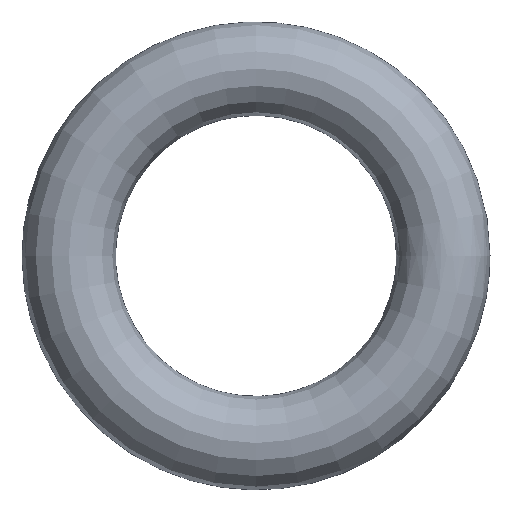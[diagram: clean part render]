
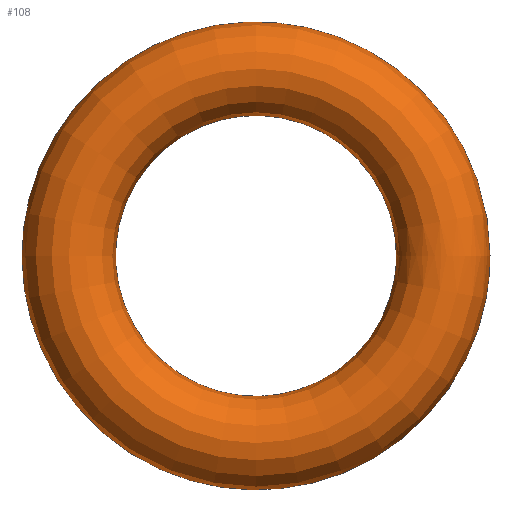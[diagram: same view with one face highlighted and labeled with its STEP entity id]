
A CAD part, top view. The second image highlights one B-rep face of the part: STEP entity #108.
In plain terms, the highlighted free-form (B-spline) face has degree [2, 2] with [9, 5] control points.
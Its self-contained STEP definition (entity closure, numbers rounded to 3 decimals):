
#18=CARTESIAN_POINT('',(15.0,0.0,0.0));
#19=CARTESIAN_POINT('',(15.,15.0,0.0));
#20=CARTESIAN_POINT('',(0.,15.0,0.0));
#21=CARTESIAN_POINT('',(-15.0,15.,0.0));
#22=CARTESIAN_POINT('',(-15.0,0.,0.0));
#23=CARTESIAN_POINT('',(-15.,-15.0,0.0));
#24=CARTESIAN_POINT('',(0.,-15.0,0.0));
#25=CARTESIAN_POINT('',(15.,-15.,0.0));
#26=CARTESIAN_POINT('',(15.0,0.,0.0));
#27=( BOUNDED_CURVE() B_SPLINE_CURVE(2,(#18,#19,#20,#21,#22,#23,#24,#25,#26),.UNSPECIFIED.,.T.,.F.) B_SPLINE_CURVE_WITH_KNOTS((3,2,2,2,3),(0.0,0.25,0.5,0.75,1.0),.UNSPECIFIED.) CURVE() GEOMETRIC_REPRESENTATION_ITEM() RATIONAL_B_SPLINE_CURVE((1.0,0.707,1.0,0.707,1.0,0.707,1.0,0.707,1.0)) REPRESENTATION_ITEM('') );
#28=CARTESIAN_POINT('',(15.0,0.0,0.0));
#29=VERTEX_POINT('',#28);
#30=EDGE_CURVE('',#29,#29,#27,.T.);
#31=CARTESIAN_POINT('',(25.0,0.0,0.));
#32=CARTESIAN_POINT('',(25.,25.0,0.));
#33=CARTESIAN_POINT('',(0.,25.0,0.));
#34=CARTESIAN_POINT('',(-25.0,25.,0.));
#35=CARTESIAN_POINT('',(-25.0,0.,0.));
#36=CARTESIAN_POINT('',(-25.,-25.0,0.));
#37=CARTESIAN_POINT('',(0.,-25.0,0.));
#38=CARTESIAN_POINT('',(25.,-25.,0.));
#39=CARTESIAN_POINT('',(25.0,0.,0.));
#40=( BOUNDED_CURVE() B_SPLINE_CURVE(2,(#31,#32,#33,#34,#35,#36,#37,#38,#39),.UNSPECIFIED.,.T.,.F.) B_SPLINE_CURVE_WITH_KNOTS((3,2,2,2,3),(0.0,0.25,0.5,0.75,1.0),.UNSPECIFIED.) CURVE() GEOMETRIC_REPRESENTATION_ITEM() RATIONAL_B_SPLINE_CURVE((1.0,0.707,1.0,0.707,1.0,0.707,1.0,0.707,1.0)) REPRESENTATION_ITEM('') );
#41=CARTESIAN_POINT('',(25.0,0.0,0.));
#42=VERTEX_POINT('',#41);
#43=EDGE_CURVE('',#42,#42,#40,.T.);
#56=CARTESIAN_POINT('',(25.0,0.0,0.));
#57=CARTESIAN_POINT('',(25.0,0.0,5.0));
#58=CARTESIAN_POINT('',(20.0,0.0,5.0));
#59=CARTESIAN_POINT('',(15.0,0.0,5.0));
#60=CARTESIAN_POINT('',(15.0,0.0,0.));
#61=CARTESIAN_POINT('',(25.,25.0,0.));
#62=CARTESIAN_POINT('',(25.,25.0,5.0));
#63=CARTESIAN_POINT('',(20.,20.0,5.0));
#64=CARTESIAN_POINT('',(15.,15.0,5.0));
#65=CARTESIAN_POINT('',(15.,15.0,0.));
#66=CARTESIAN_POINT('',(0.,25.0,0.));
#67=CARTESIAN_POINT('',(0.,25.0,5.0));
#68=CARTESIAN_POINT('',(0.,20.0,5.0));
#69=CARTESIAN_POINT('',(0.,15.0,5.0));
#70=CARTESIAN_POINT('',(0.,15.0,0.));
#71=CARTESIAN_POINT('',(-25.0,25.,0.));
#72=CARTESIAN_POINT('',(-25.0,25.,5.0));
#73=CARTESIAN_POINT('',(-20.0,20.,5.0));
#74=CARTESIAN_POINT('',(-15.0,15.,5.0));
#75=CARTESIAN_POINT('',(-15.0,15.,0.));
#76=CARTESIAN_POINT('',(-25.0,0.,0.));
#77=CARTESIAN_POINT('',(-25.0,0.,5.0));
#78=CARTESIAN_POINT('',(-20.0,0.,5.0));
#79=CARTESIAN_POINT('',(-15.0,0.,5.0));
#80=CARTESIAN_POINT('',(-15.0,0.,0.));
#81=CARTESIAN_POINT('',(-25.,-25.0,0.));
#82=CARTESIAN_POINT('',(-25.,-25.0,5.0));
#83=CARTESIAN_POINT('',(-20.,-20.0,5.0));
#84=CARTESIAN_POINT('',(-15.,-15.0,5.0));
#85=CARTESIAN_POINT('',(-15.,-15.0,0.));
#86=CARTESIAN_POINT('',(0.,-25.0,0.));
#87=CARTESIAN_POINT('',(0.,-25.0,5.0));
#88=CARTESIAN_POINT('',(0.,-20.0,5.0));
#89=CARTESIAN_POINT('',(0.,-15.0,5.0));
#90=CARTESIAN_POINT('',(0.,-15.0,0.));
#91=CARTESIAN_POINT('',(25.,-25.,0.));
#92=CARTESIAN_POINT('',(25.,-25.,5.0));
#93=CARTESIAN_POINT('',(20.,-20.,5.0));
#94=CARTESIAN_POINT('',(15.,-15.,5.0));
#95=CARTESIAN_POINT('',(15.,-15.,0.));
#96=CARTESIAN_POINT('',(25.0,0.,0.));
#97=CARTESIAN_POINT('',(25.0,0.,5.0));
#98=CARTESIAN_POINT('',(20.0,0.,5.0));
#99=CARTESIAN_POINT('',(15.0,0.,5.0));
#100=CARTESIAN_POINT('',(15.0,0.,0.));
#101=( BOUNDED_SURFACE() B_SPLINE_SURFACE(2,2,((#56,#57,#58,#59,#60),(#61,#62,#63,#64,#65),(#66,#67,#68,#69,#70),(#71,#72,#73,#74,#75),(#76,#77,#78,#79,#80),(#81,#82,#83,#84,#85),(#86,#87,#88,#89,#90),(#91,#92,#93,#94,#95),(#96,#97,#98,#99,#100)),.UNSPECIFIED.,.T.,.F.,.F.) B_SPLINE_SURFACE_WITH_KNOTS((3,2,2,2,3),(3,2,3),(0.0,0.25,0.5,0.75,1.0),(0.0,0.5,1.0),.UNSPECIFIED.) GEOMETRIC_REPRESENTATION_ITEM() RATIONAL_B_SPLINE_SURFACE(((1.0,0.707,1.0,0.707,1.0),(0.707,0.5,0.707,0.5,0.707),(1.0,0.707,1.0,0.707,1.0),(0.707,0.5,0.707,0.5,0.707),(1.0,0.707,1.0,0.707,1.0),(0.707,0.5,0.707,0.5,0.707),(1.0,0.707,1.0,0.707,1.0),(0.707,0.5,0.707,0.5,0.707),(1.0,0.707,1.0,0.707,1.0))) REPRESENTATION_ITEM('') SURFACE() );
#102=ORIENTED_EDGE('',*,*,#43,.T.);
#103=EDGE_LOOP('',(#102));
#104=ORIENTED_EDGE('',*,*,#30,.F.);
#105=EDGE_LOOP('',(#104));
#106=FACE_OUTER_BOUND('',#103,.T.);
#107=FACE_BOUND('',#105,.T.);
#108=ADVANCED_FACE('',(#106,#107),#101,.T.);
